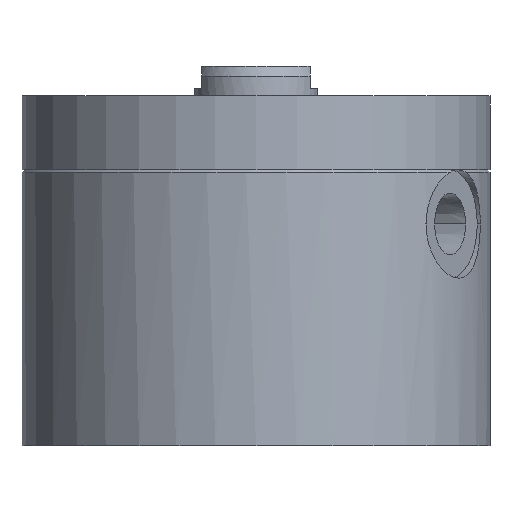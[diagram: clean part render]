
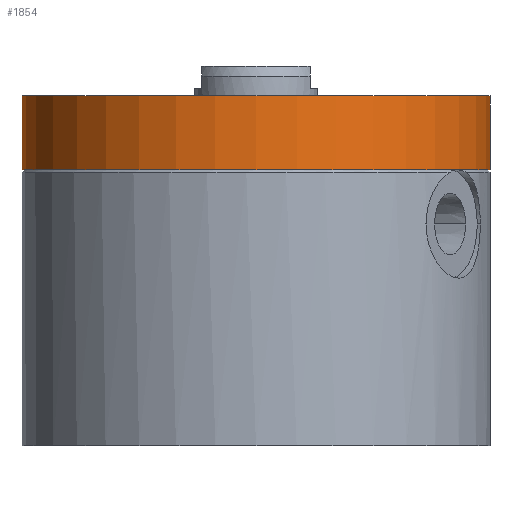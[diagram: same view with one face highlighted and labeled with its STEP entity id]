
A CAD part, front view. The second image highlights one B-rep face of the part: STEP entity #1854.
In plain terms, the highlighted cylindrical face has radius 47.5 mm (diameter 95 mm), a partial arc.
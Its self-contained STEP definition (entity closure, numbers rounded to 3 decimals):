
#11 = CARTESIAN_POINT ( 'NONE',  ( 47.5, 0., 71. ) ) ;
#129 = DIRECTION ( 'NONE',  ( 0., 0., -1. ) ) ;
#146 = VERTEX_POINT ( 'NONE', #1465 ) ;
#273 = DIRECTION ( 'NONE',  ( 1., 0., 0. ) ) ;
#298 = ORIENTED_EDGE ( 'NONE', *, *, #1496, .T. ) ;
#385 = DIRECTION ( 'NONE',  ( 0., 0., -1. ) ) ;
#488 = VERTEX_POINT ( 'NONE', #11 ) ;
#527 = VERTEX_POINT ( 'NONE', #2351 ) ;
#532 = CARTESIAN_POINT ( 'NONE',  ( 0., 0., 56. ) ) ;
#650 = LINE ( 'NONE', #986, #1266 ) ;
#660 = CARTESIAN_POINT ( 'NONE',  ( 0., 0., 71. ) ) ;
#806 = EDGE_CURVE ( 'NONE', #146, #1285, #650, .T. ) ;
#986 = CARTESIAN_POINT ( 'NONE',  ( -47.5, 0., 71. ) ) ;
#1027 = ORIENTED_EDGE ( 'NONE', *, *, #3044, .F. ) ;
#1100 = DIRECTION ( 'NONE',  ( 0., 0., 1. ) ) ;
#1266 = VECTOR ( 'NONE', #2821, 1000. ) ;
#1285 = VERTEX_POINT ( 'NONE', #1749 ) ;
#1401 = ORIENTED_EDGE ( 'NONE', *, *, #806, .T. ) ;
#1465 = CARTESIAN_POINT ( 'NONE',  ( -47.5, 0., 71. ) ) ;
#1496 = EDGE_CURVE ( 'NONE', #1285, #527, #1726, .T. ) ;
#1551 = AXIS2_PLACEMENT_3D ( 'NONE', #2668, #1100, #2932 ) ;
#1552 = VECTOR ( 'NONE', #129, 1000. ) ;
#1686 = DIRECTION ( 'NONE',  ( -1., 0., 0. ) ) ;
#1726 = CIRCLE ( 'NONE', #2436, 47.5 ) ;
#1749 = CARTESIAN_POINT ( 'NONE',  ( -47.5, 0., 56. ) ) ;
#1854 = ADVANCED_FACE ( 'NONE', ( #2762 ), #1975, .T. ) ;
#1957 = CARTESIAN_POINT ( 'NONE',  ( 47.5, 0., 71. ) ) ;
#1975 = CYLINDRICAL_SURFACE ( 'NONE', #3276, 47.5 ) ;
#2105 = DIRECTION ( 'NONE',  ( 0., 0., 1. ) ) ;
#2351 = CARTESIAN_POINT ( 'NONE',  ( 47.5, 0., 56. ) ) ;
#2416 = LINE ( 'NONE', #1957, #1552 ) ;
#2427 = EDGE_LOOP ( 'NONE', ( #1027, #2713, #1401, #298 ) ) ;
#2432 = EDGE_CURVE ( 'NONE', #146, #488, #2504, .T. ) ;
#2436 = AXIS2_PLACEMENT_3D ( 'NONE', #532, #2105, #273 ) ;
#2504 = CIRCLE ( 'NONE', #1551, 47.5 ) ;
#2668 = CARTESIAN_POINT ( 'NONE',  ( 0., 0., 71. ) ) ;
#2713 = ORIENTED_EDGE ( 'NONE', *, *, #2432, .F. ) ;
#2762 = FACE_OUTER_BOUND ( 'NONE', #2427, .T. ) ;
#2821 = DIRECTION ( 'NONE',  ( 0., 0., -1. ) ) ;
#2932 = DIRECTION ( 'NONE',  ( 1., 0., 0. ) ) ;
#3044 = EDGE_CURVE ( 'NONE', #488, #527, #2416, .T. ) ;
#3276 = AXIS2_PLACEMENT_3D ( 'NONE', #660, #385, #1686 ) ;
